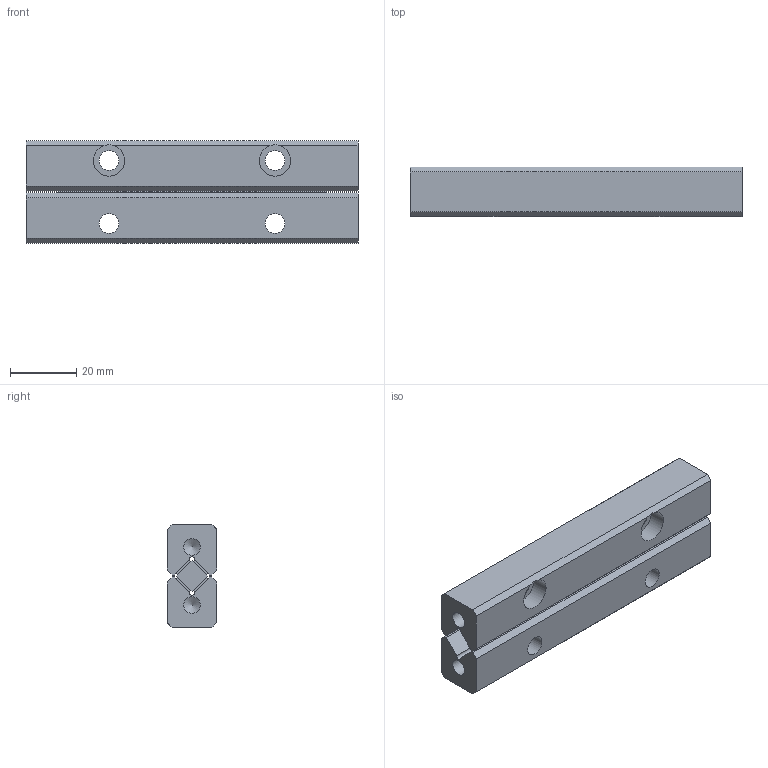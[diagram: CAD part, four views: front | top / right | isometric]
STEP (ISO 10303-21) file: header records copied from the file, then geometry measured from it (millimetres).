
FILE_DESCRIPTION((''),'2;1');
FILE_NAME('D:\製品 (図面)\カタログ用3D\リニアガイド関連\STEP形式\ACS6\ACS6100.stp','2010-07-29T15:41:29',('Tsuchiya'),(''),'Autodesk Inventor 10','Autodesk Inventor 10','');
FILE_SCHEMA(('AUTOMOTIVE_DESIGN { 1 0 10303 214 1 1 1 1 }'));
Length unit declared in the file: millimetre
Products named in the file (4): ACS6100; ACS61001; ACS61002; ACS61003
Assembly tree (3 placements, depth 2):
  ACS6100
    ACS61001
    ACS61002
    ACS61003
Bounding box: 100 x 15 x 31 mm (x, y, z)
Volume: 40207.3 mm3; surface area: 17545.4 mm2
Topology: 3 solids, 3 shells, 74 faces, 190 edges, 126 vertices
Faces by surface type: plane 52, bspline 16, cylinder 4, cone 2
Full cylindrical faces by diameter (mm): 5 x2
Entity records: 2335 total; most frequent: CARTESIAN_POINT 577, ORIENTED_EDGE 328, DIRECTION 326, EDGE_CURVE 164, VECTOR 132, LINE 132, VERTEX_POINT 116, EDGE_LOOP 102
